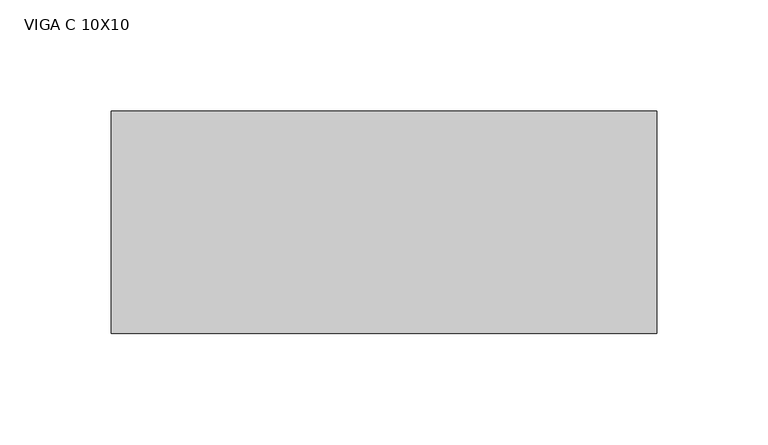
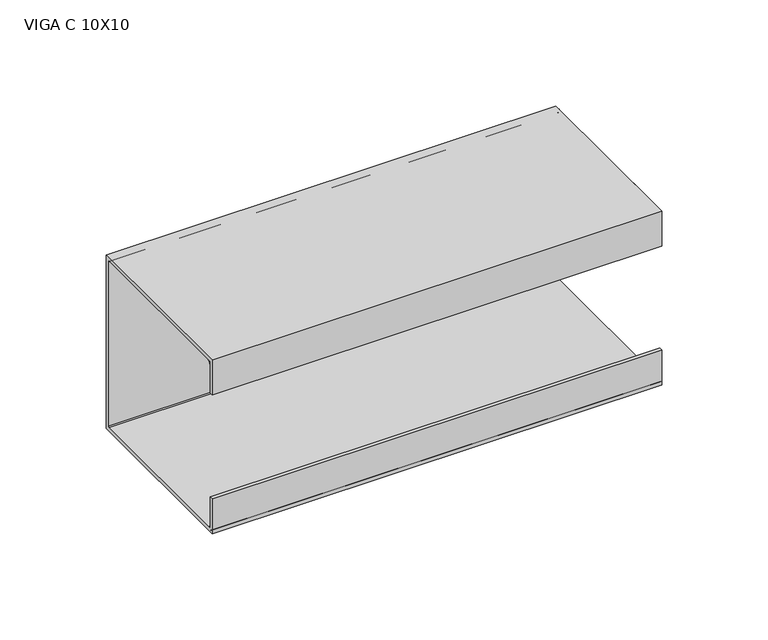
"""IFC4 building model written with IfcOpenShell, lengths in millimetres: beam geometry, VIGA PERFIL C AÇO : VIGA C 10X10."""

from ifc_helpers import new_model, si_unit, point, frame, frame_2d, origin, place, context, project, spatial, polyline, circle_curve, trimmed, segment, composite_curve, outline, extrude, source, transform, mapped, element, save


def viga_c_10x10_b119d5ce(model_context):
    return source(origin(), model_context, "Body", "SweptSolid", [
        extrude(outline(polyline([(9.2, -50.0), (-90.8, -50.0), (-90.8, -30.0), (-88.9, -30.0), (-88.9, -48.1), (7.3, -48.1), (7.3, 48.1), (-88.9, 48.1), (-88.9, 30.0), (-90.8, 30.0), (-90.8, 50.0), (9.2, 50.0), (9.2, -50.0)])), frame((-130.0, 0.0, 0.0), z_axis=(1.0, 0.0, 0.0), x_axis=(0.0, 1.0, 0.0)), (0.0, 0.0, 1.0), 245.0),
        extrude(outline(composite_curve([segment(trimmed(circle_curve(frame_2d((5.4, -46.2)), 3.8), [point((9.2, -46.2))], [point((5.4, -50.0))], False, "CARTESIAN"), True, "CONTINUOUS"), segment(polyline([(5.4, -50.0), (-87.0, -50.0)]), True, "CONTINUOUS"), segment(trimmed(circle_curve(frame_2d((-87.0, -46.2)), 3.8), [point((-87.0, -50.0))], [point((-90.8, -46.2))], False, "CARTESIAN"), True, "CONTINUOUS"), segment(polyline([(-90.8, -46.2), (-90.8, -30.0), (-88.9, -30.0), (-88.9, -46.2)]), True, "CONTINUOUS"), segment(trimmed(circle_curve(frame_2d((-87.0, -46.2)), 1.9), [point((-88.9, -46.2))], [point((-87.0, -48.1))], True, "CARTESIAN"), True, "CONTINUOUS"), segment(polyline([(-87.0, -48.1), (5.4, -48.1)]), True, "CONTINUOUS"), segment(trimmed(circle_curve(frame_2d((5.4, -46.2)), 1.9), [point((5.4, -48.1))], [point((7.3, -46.2))], True, "CARTESIAN"), True, "CONTINUOUS"), segment(polyline([(7.3, -46.2), (7.3, 46.2)]), True, "CONTINUOUS"), segment(trimmed(circle_curve(frame_2d((5.4, 46.2)), 1.9), [point((7.3, 46.2))], [point((5.4, 48.1))], True, "CARTESIAN"), True, "CONTINUOUS"), segment(polyline([(5.4, 48.1), (-87.0, 48.1)]), True, "CONTINUOUS"), segment(trimmed(circle_curve(frame_2d((-87.0, 46.2)), 1.9), [point((-87.0, 48.1))], [point((-88.9, 46.2))], True, "CARTESIAN"), True, "CONTINUOUS"), segment(polyline([(-88.9, 46.2), (-88.9, 30.0), (-90.8, 30.0), (-90.8, 46.2)]), True, "CONTINUOUS"), segment(trimmed(circle_curve(frame_2d((-87.0, 46.2)), 3.8), [point((-90.8, 46.2))], [point((-87.0, 50.0))], False, "CARTESIAN"), True, "CONTINUOUS"), segment(polyline([(-87.0, 50.0), (5.4, 50.0)]), True, "CONTINUOUS"), segment(trimmed(circle_curve(frame_2d((5.4, 46.2)), 3.8), [point((5.4, 50.0))], [point((9.2, 46.2))], False, "CARTESIAN"), True, "CONTINUOUS"), segment(polyline([(9.2, 46.2), (9.2, -46.2)]), True, "CONTINUOUS")], self_intersect=False)), frame((-130.0, 0.0, 0.0), z_axis=(1.0, 0.0, 0.0), x_axis=(0.0, 1.0, 0.0)), (0.0, 0.0, 1.0), 245.0),
    ])


if __name__ == "__main__":
    model = new_model("IFC4")
    model_context = context("Model", 3, world=origin())
    ifc_project = project(units=[si_unit("LENGTHUNIT", "METRE", prefix="MILLI")], contexts=[model_context])
    site = spatial("IfcSite", under=ifc_project)
    building = spatial("IfcBuilding", under=site)
    placement = place(None, origin())
    viga_c_10x10_shape = viga_c_10x10_b119d5ce(model_context)
    element("IfcBeam", 1, ObjectType="VIGA PERFIL C AÇO : VIGA C 10X10", at=placement, inside=building, context=model_context, shape_type="MappedRepresentation", body=[
        mapped(viga_c_10x10_shape, transform((0.0, 0.0, 0.0), x_axis=(1.0, 0.0, 0.0), y_axis=(0.0, 1.0, 0.0), z_axis=(0.0, 0.0, 1.0))),
    ])
    save(model, "model.ifc")
